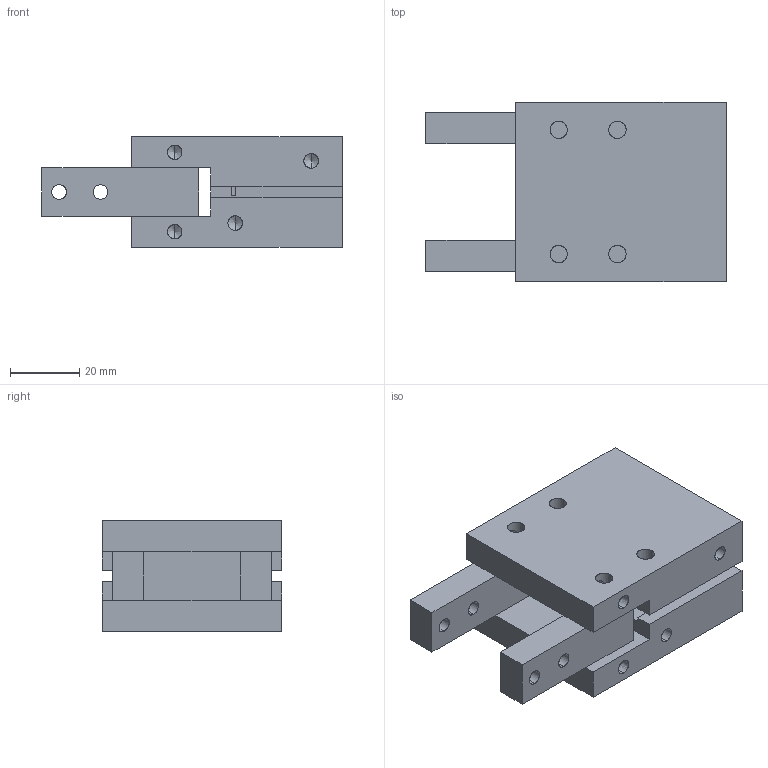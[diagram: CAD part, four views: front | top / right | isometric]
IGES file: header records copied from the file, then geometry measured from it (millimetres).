
Start section: SolidWorks IGES file using analytic representation for surfaces
Global section: file name: D:\MI\新增資料夾\Angular 2 Finger Gripper\FCHY-25.IGS; native system: SolidWorks 2013; preprocessor: SolidWorks 2013; author: Sam Lin; date: 160329.142234; units: millimetre
Bounding box: 87 x 52 x 32 mm (x, y, z)
Surface area: 23265.2 mm2 (no closed solid volume)
Topology: 0 solids, 0 shells, 115 faces, 2098 edges, 2078 vertices
Faces by surface type: revolution 72, bspline 43
